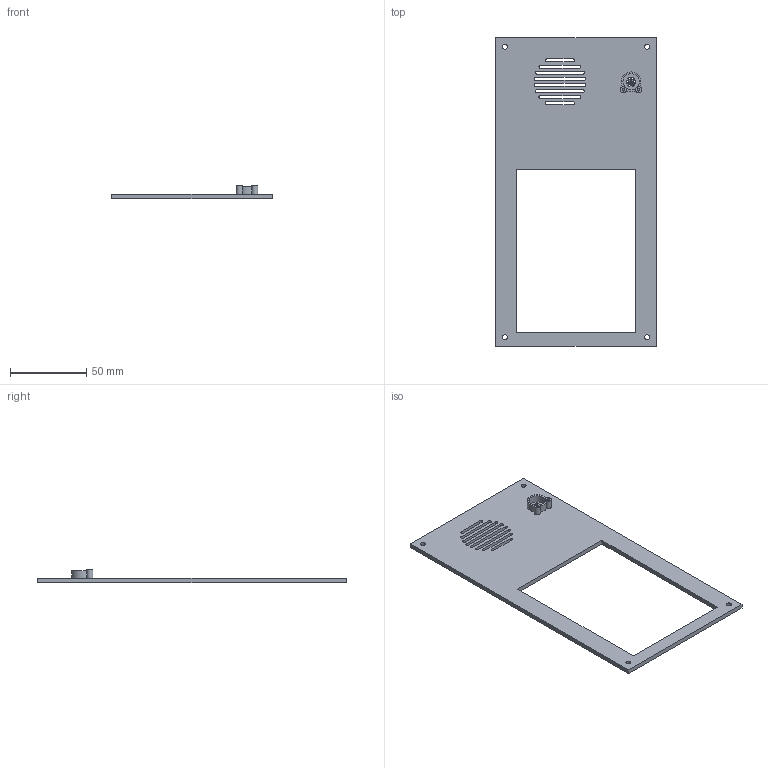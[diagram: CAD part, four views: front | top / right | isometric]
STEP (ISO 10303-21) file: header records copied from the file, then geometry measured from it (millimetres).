
FILE_DESCRIPTION(('Open CASCADE Model'),'2;1');
FILE_NAME('Open CASCADE Shape Model','2026-11-11T15:03:46',('Author'),( 'Open CASCADE'),'Open CASCADE STEP processor 7.8','Open CASCADE 7.8' ,'Unknown');
FILE_SCHEMA(('AUTOMOTIVE_DESIGN { 1 0 10303 214 1 1 1 1 }'));
Length unit declared in the file: millimetre
Products named in the file (1): Open CASCADE STEP translator 7.8 2
Bounding box: 105 x 202 x 9 mm (x, y, z)
Volume: 37442.1 mm3; surface area: 29841.8 mm2
Topology: 1 solids, 1 shells, 74 faces, 201 edges, 134 vertices
Faces by surface type: plane 37, cylinder 37
Full cylindrical faces by diameter (mm): 1.6 x9, 3.3 x4, 4.1 x2
Entity records: 5281 total; most frequent: CARTESIAN_POINT 1226, DIRECTION 770, LINE 431, VECTOR 431, ORIENTED_EDGE 402, PCURVE 402, DEFINITIONAL_REPRESENTATION 402, EDGE_CURVE 201
